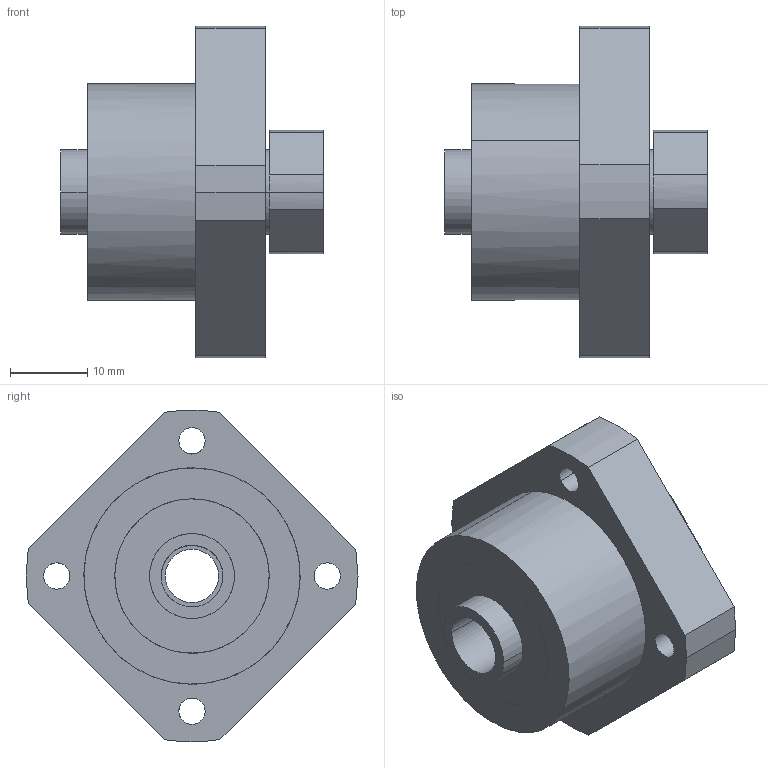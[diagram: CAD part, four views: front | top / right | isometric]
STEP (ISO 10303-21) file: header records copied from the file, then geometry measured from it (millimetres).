
FILE_DESCRIPTION(('CATIA V5 STEP Exchange'),'2;1');
FILE_NAME('D:\서포트 완성도면\FK\FK8.stp','2014-03-26T10:34:12+00:00',('none'),('none'),'CATIA Version 5 Release 18 GA (IN-10)','CATIA V5 STEP AP203','none');
FILE_SCHEMA(('CONFIG_CONTROL_DESIGN'));
Length unit declared in the file: millimetre
Products named in the file (1): FK8
Assembly tree (4 placements, depth 2):
  FK8
    #56
    #2036
    #2299
    #2562
Bounding box: 34 x 43 x 42.93 mm (x, y, z)
Volume: 18554.3 mm3; surface area: 7517.5 mm2
Topology: 4 solids, 4 shells, 72 faces, 168 edges, 112 vertices
Faces by surface type: cylinder 48, plane 24
Entity records: 3040 total; most frequent: CARTESIAN_POINT 1419, ORIENTED_EDGE 336, DIRECTION 233, EDGE_CURVE 168, VERTEX_POINT 112, EDGE_LOOP 96, AXIS2_PLACEMENT_3D 92, B_SPLINE_CURVE_WITH_KNOTS 73
